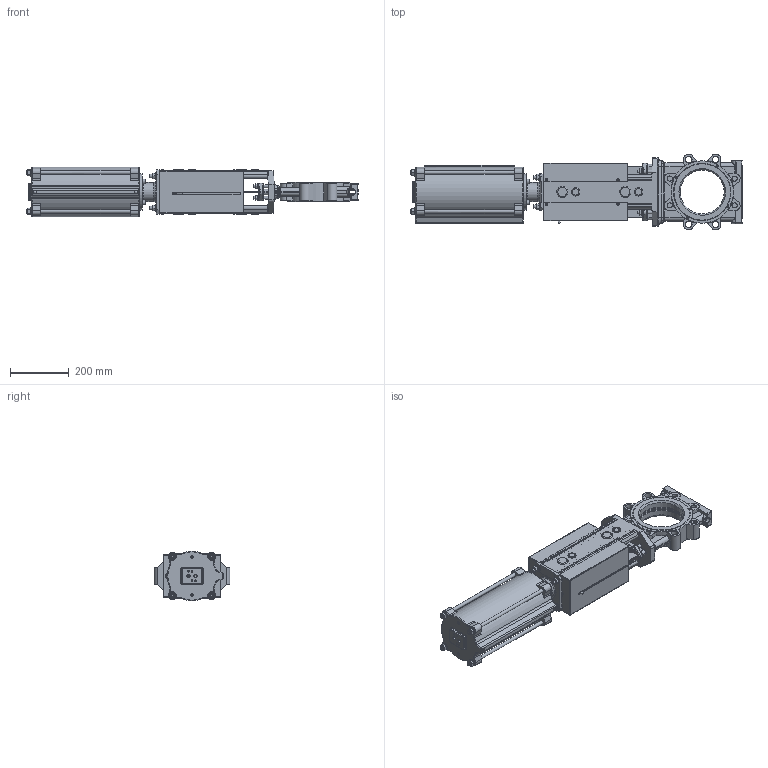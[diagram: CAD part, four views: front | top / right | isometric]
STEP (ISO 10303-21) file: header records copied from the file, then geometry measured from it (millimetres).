
FILE_DESCRIPTION(/* description */ (''),/* implementation_level */ '2;1');
FILE_NAME(/* name */ 'F:\Emir\3D-block special\SLV\SLV-DN150-PN10-FRSC160-215.stp',/* time_stamp */ '2018-09-03T09:20:31+02:00',/* author */ ('emimus'),/* organization */ (''),/* preprocessor_version */ 'ST-DEVELOPER v17',/* originating_system */ 'Autodesk Inventor 2018',/* authorisation */ '');
FILE_SCHEMA (('CONFIG_CONTROL_DESIGN'));
Products named in the file (1): SLV-DN150-PN10-FRSC160-215sat
Bounding box: 1135 x 258.62 x 170 mm (x, y, z)
Volume: 6784980.6 mm3; surface area: 2072304.7 mm2
Topology: 2 solids, 2 shells, 2474 faces, 6430 edges, 4046 vertices
Faces by surface type: plane 959, cylinder 657, bspline 270, cone 264, torus 249, sphere 75
Full cylindrical faces by diameter (mm): 3 x7, 3.5 x8, 3.6 x8, 4 x6, 4.134 x12, 4.5 x4, 4.917 x4, 6 x1, 6.75 x8, 7 x8, 8 x2, 8.376 x2, 8.88 x1, 9.5 x4, 10 x23, 10.5 x4, 11.445 x2, 12 x26, 13 x13, 14 x4, 15 x4, 16 x6, 17.5 x8, 17.7 x1, 18 x8, 18.376 x1, 19.145 x2, 20 x5, 20.5 x1, 23 x4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
Entity records: 92175 total; most frequent: CARTESIAN_POINT 32095, DIRECTION 12916, ORIENTED_EDGE 12714, EDGE_CURVE 6357, AXIS2_PLACEMENT_3D 5362, VERTEX_POINT 4046, CIRCLE 2853, EDGE_LOOP 2767
